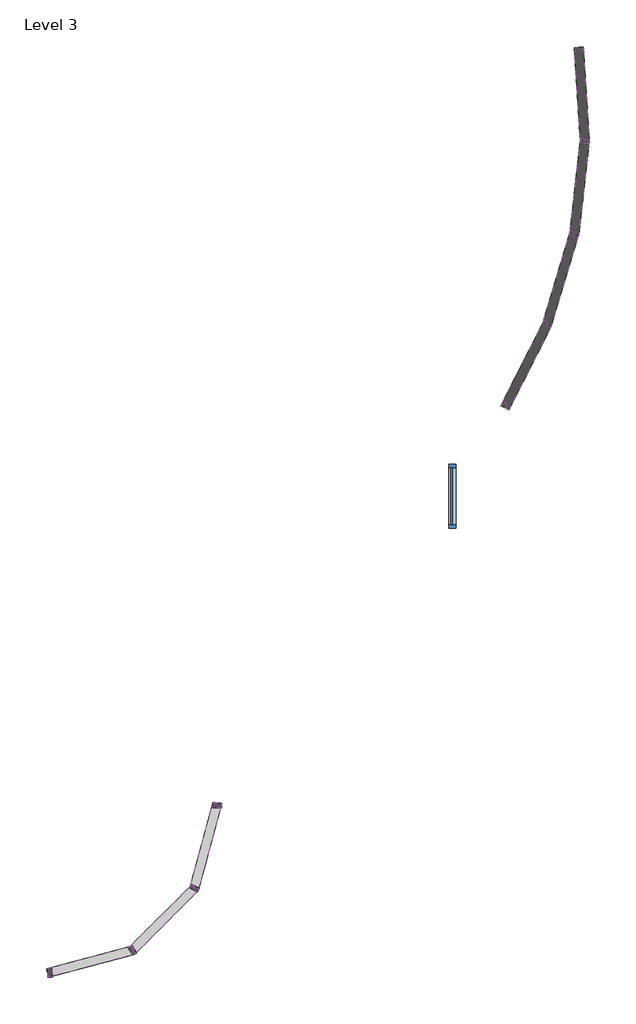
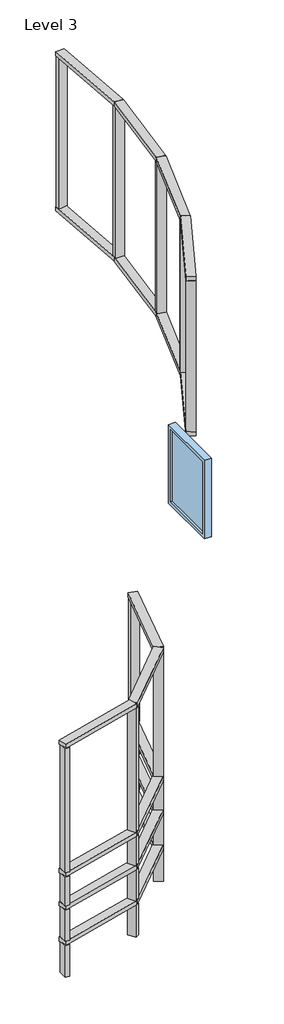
# One storey: 41 members, 1 window.
"""IFC4 building model written with IfcOpenShell, lengths in millimetres."""

from ifc_helpers import new_model, si_unit, frame, origin, place, context, project, spatial, polyline, outline, extrude, transform, mapped, element, save
from components import fixed_552a8660

model = new_model("IFC4")

# Units and contexts
model_context = context("Model", 3, world=origin())
ifc_project = project(units=[si_unit("LENGTHUNIT", "METRE", prefix="MILLI")], contexts=[model_context])

# Site, building, storey
site = spatial("IfcSite", under=ifc_project)
building = spatial("IfcBuilding", under=site)
storey = spatial("IfcBuildingStorey", under=building, Name="Level 3", Elevation=7315.2)

# Members
placement = place(None, origin())
element("IfcMember", 1, ObjectType="Rectangular Mullion1 : 2.5\" x 5\" rectangular", at=placement, inside=storey, context=model_context, shape_type="SweptSolid", body=[
    extrude(outline(polyline([(-113122.4790603, 32641.1481071), (-113245.1516403, 32674.0181259), (-112918.4679848, 33893.2181259), (-112795.7954049, 33860.3481071), (-113122.4790603, 32641.1481071)])), frame((0.0, 0.0, 7853.3565312), z_axis=(0.0, 0.0, 1.0), x_axis=(1.0, 0.0, 0.0)), (0.0, 0.0, 1.0), 63.5),
])
element("IfcMember", 2, ObjectType="Rectangular Mullion1 : 2.5\" x 5\" rectangular", at=placement, inside=storey, context=model_context, shape_type="SweptSolid", body=[
    extrude(outline(polyline([(-114031.4304143, 31720.1654913), (-114121.2329755, 31809.9680525), (-113228.7166309, 32702.4843971), (-113138.9140697, 32612.6818359), (-114031.4304143, 31720.1654913)])), frame((0.0, 0.0, 7853.3565312), z_axis=(0.0, 0.0, 1.0), x_axis=(1.0, 0.0, 0.0)), (0.0, 0.0, 1.0), 63.5),
])
element("IfcMember", 3, ObjectType="Rectangular Mullion1 : 2.5\" x 5\" rectangular", at=placement, inside=storey, context=model_context, shape_type="SweptSolid", body=[
    extrude(outline(polyline([(-115279.0966855, 31377.0468265), (-115311.9667042, 31499.7194065), (-114092.7667042, 31826.4030619), (-114059.8966855, 31703.7304819), (-115279.0966855, 31377.0468265)])), frame((0.0, 0.0, 7853.3565312), z_axis=(0.0, 0.0, 1.0), x_axis=(1.0, 0.0, 0.0)), (0.0, 0.0, 1.0), 63.5),
])
element("IfcMember", 4, ObjectType="Rectangular Mullion1 : 2.5\" x 5\" rectangular", at=placement, inside=storey, context=model_context, shape_type="SweptSolid", body=[
    extrude(outline(polyline([(-113122.4790603, 32641.1481071), (-113245.1516403, 32674.0181259), (-112918.4679848, 33893.2181259), (-112795.7954049, 33860.3481071), (-113122.4790603, 32641.1481071)])), frame((0.0, 0.0, 8400.9477899), z_axis=(0.0, 0.0, 1.0), x_axis=(1.0, 0.0, 0.0)), (0.0, 0.0, 1.0), 63.5),
])
element("IfcMember", 5, ObjectType="Rectangular Mullion1 : 2.5\" x 5\" rectangular", at=placement, inside=storey, context=model_context, shape_type="SweptSolid", body=[
    extrude(outline(polyline([(-114031.4304143, 31720.1654913), (-114121.2329755, 31809.9680525), (-113228.7166309, 32702.4843971), (-113138.9140697, 32612.6818359), (-114031.4304143, 31720.1654913)])), frame((0.0, 0.0, 8400.9477899), z_axis=(0.0, 0.0, 1.0), x_axis=(1.0, 0.0, 0.0)), (0.0, 0.0, 1.0), 63.5),
])
element("IfcMember", 6, ObjectType="Rectangular Mullion1 : 2.5\" x 5\" rectangular", at=placement, inside=storey, context=model_context, shape_type="SweptSolid", body=[
    extrude(outline(polyline([(-115279.0966855, 31377.0468265), (-115311.9667042, 31499.7194065), (-114092.7667042, 31826.4030619), (-114059.8966855, 31703.7304819), (-115279.0966855, 31377.0468265)])), frame((0.0, 0.0, 8400.9477899), z_axis=(0.0, 0.0, 1.0), x_axis=(1.0, 0.0, 0.0)), (0.0, 0.0, 1.0), 63.5),
])
element("IfcMember", 7, ObjectType="Rectangular Mullion1 : 2.5\" x 5\" rectangular", at=placement, inside=storey, context=model_context, shape_type="SweptSolid", body=[
    extrude(outline(polyline([(-113122.4790603, 32641.1481071), (-113245.1516403, 32674.0181259), (-112918.4679848, 33893.2181259), (-112795.7954049, 33860.3481071), (-113122.4790603, 32641.1481071)])), frame((0.0, 0.0, 8916.5900713), z_axis=(0.0, 0.0, 1.0), x_axis=(1.0, 0.0, 0.0)), (0.0, 0.0, 1.0), 63.5),
])
element("IfcMember", 8, ObjectType="Rectangular Mullion1 : 2.5\" x 5\" rectangular", at=placement, inside=storey, context=model_context, shape_type="SweptSolid", body=[
    extrude(outline(polyline([(-114031.4304143, 31720.1654913), (-114121.2329755, 31809.9680525), (-113228.7166309, 32702.4843971), (-113138.9140697, 32612.6818359), (-114031.4304143, 31720.1654913)])), frame((0.0, 0.0, 8916.5900713), z_axis=(0.0, 0.0, 1.0), x_axis=(1.0, 0.0, 0.0)), (0.0, 0.0, 1.0), 63.5),
])
element("IfcMember", 9, ObjectType="Rectangular Mullion1 : 2.5\" x 5\" rectangular", at=placement, inside=storey, context=model_context, shape_type="SweptSolid", body=[
    extrude(outline(polyline([(-115279.0966855, 31377.0468265), (-115311.9667042, 31499.7194065), (-114092.7667042, 31826.4030619), (-114059.8966855, 31703.7304819), (-115279.0966855, 31377.0468265)])), frame((0.0, 0.0, 8916.5900713), z_axis=(0.0, 0.0, 1.0), x_axis=(1.0, 0.0, 0.0)), (0.0, 0.0, 1.0), 63.5),
])
element("IfcMember", 10, ObjectType="Rectangular Mullion1 : 2.5\" x 5\" rectangular", at=placement, inside=storey, context=model_context, shape_type="SweptSolid", body=[
    extrude(outline(polyline([(-113122.4790603, 32641.1481071), (-113245.1516403, 32674.0181259), (-112918.4679848, 33893.2181259), (-112795.7954049, 33860.3481071), (-113122.4790603, 32641.1481071)])), frame((0.0, 0.0, 10909.3), z_axis=(0.0, 0.0, 1.0), x_axis=(1.0, 0.0, 0.0)), (0.0, 0.0, 1.0), 63.5),
])
element("IfcMember", 11, ObjectType="Rectangular Mullion1 : 2.5\" x 5\" rectangular", at=placement, inside=storey, context=model_context, shape_type="SweptSolid", body=[
    extrude(outline(polyline([(-114031.4304143, 31720.1654913), (-114121.2329755, 31809.9680525), (-113228.7166309, 32702.4843971), (-113138.9140697, 32612.6818359), (-114031.4304143, 31720.1654913)])), frame((0.0, 0.0, 10909.3), z_axis=(0.0, 0.0, 1.0), x_axis=(1.0, 0.0, 0.0)), (0.0, 0.0, 1.0), 63.5),
])
element("IfcMember", 12, ObjectType="Rectangular Mullion1 : 2.5\" x 5\" rectangular", at=placement, inside=storey, context=model_context, shape_type="SweptSolid", body=[
    extrude(outline(polyline([(-115279.0966855, 31377.0468265), (-115311.9667042, 31499.7194065), (-114092.7667042, 31826.4030619), (-114059.8966855, 31703.7304819), (-115279.0966855, 31377.0468265)])), frame((0.0, 0.0, 10909.3), z_axis=(0.0, 0.0, 1.0), x_axis=(1.0, 0.0, 0.0)), (0.0, 0.0, 1.0), 63.5),
])
element("IfcMember", 13, ObjectType="Rectangular Mullion1 : 2.5\" x 5\" rectangular", at=placement, inside=storey, context=model_context, shape_type="SweptSolid", body=[
    extrude(outline(polyline([(-112793.6316949, 33813.2831165), (-112920.6316949, 33813.2831165), (-112920.6316949, 33876.7831165), (-112793.6316949, 33876.7831165), (-112793.6316949, 33813.2831165)])), frame((0.0, 0.0, 7358.2440597), z_axis=(0.0, 0.0, 1.0), x_axis=(1.0, 0.0, 0.0)), (0.0, 0.0, 1.0), 495.1124715),
])
element("IfcMember", 14, ObjectType="Rectangular Mullion1 : 2.5\" x 5\" rectangular", at=placement, inside=storey, context=model_context, shape_type="SweptSolid", body=[
    extrude(outline(polyline([(-112793.6316949, 33813.2831165), (-112920.6316949, 33813.2831165), (-112920.6316949, 33876.7831165), (-112793.6316949, 33876.7831165), (-112793.6316949, 33813.2831165)])), frame((0.0, 0.0, 7916.8565312), z_axis=(0.0, 0.0, 1.0), x_axis=(1.0, 0.0, 0.0)), (0.0, 0.0, 1.0), 484.0912587),
])
element("IfcMember", 15, ObjectType="Rectangular Mullion1 : 2.5\" x 5\" rectangular", at=placement, inside=storey, context=model_context, shape_type="SweptSolid", body=[
    extrude(outline(polyline([(-112793.6316949, 33813.2831165), (-112920.6316949, 33813.2831165), (-112920.6316949, 33876.7831165), (-112793.6316949, 33876.7831165), (-112793.6316949, 33813.2831165)])), frame((0.0, 0.0, 8464.4477899), z_axis=(0.0, 0.0, 1.0), x_axis=(1.0, 0.0, 0.0)), (0.0, 0.0, 1.0), 452.1422814),
])
element("IfcMember", 16, ObjectType="Rectangular Mullion1 : 2.5\" x 5\" rectangular", at=placement, inside=storey, context=model_context, shape_type="SweptSolid", body=[
    extrude(outline(polyline([(-112793.6316949, 33813.2831165), (-112920.6316949, 33813.2831165), (-112920.6316949, 33876.7831165), (-112793.6316949, 33876.7831165), (-112793.6316949, 33813.2831165)])), frame((0.0, 0.0, 8980.0900713), z_axis=(0.0, 0.0, 1.0), x_axis=(1.0, 0.0, 0.0)), (0.0, 0.0, 1.0), 1929.2099287),
])
element("IfcMember", 17, ObjectType="Rectangular Mullion1 : 2.5\" x 5\" rectangular", at=placement, inside=storey, context=model_context, shape_type="SweptSolid", body=[
    extrude(outline(polyline([(-113144.6977371, 32598.3368099), (-113254.6829634, 32661.8368099), (-113222.9329634, 32716.8294231), (-113112.9477371, 32653.3294231), (-113144.6977371, 32598.3368099)])), frame((0.0, 0.0, 7358.2440597), z_axis=(0.0, 0.0, 1.0), x_axis=(1.0, 0.0, 0.0)), (0.0, 0.0, 1.0), 495.1124715),
])
element("IfcMember", 18, ObjectType="Rectangular Mullion1 : 2.5\" x 5\" rectangular", at=placement, inside=storey, context=model_context, shape_type="SweptSolid", body=[
    extrude(outline(polyline([(-113144.6977371, 32598.3368099), (-113254.6829634, 32661.8368099), (-113222.9329634, 32716.8294231), (-113112.9477371, 32653.3294231), (-113144.6977371, 32598.3368099)])), frame((0.0, 0.0, 7916.8565312), z_axis=(0.0, 0.0, 1.0), x_axis=(1.0, 0.0, 0.0)), (0.0, 0.0, 1.0), 484.0912587),
])
element("IfcMember", 19, ObjectType="Rectangular Mullion1 : 2.5\" x 5\" rectangular", at=placement, inside=storey, context=model_context, shape_type="SweptSolid", body=[
    extrude(outline(polyline([(-113144.6977371, 32598.3368099), (-113254.6829634, 32661.8368099), (-113222.9329634, 32716.8294231), (-113112.9477371, 32653.3294231), (-113144.6977371, 32598.3368099)])), frame((0.0, 0.0, 8464.4477899), z_axis=(0.0, 0.0, 1.0), x_axis=(1.0, 0.0, 0.0)), (0.0, 0.0, 1.0), 452.1422814),
])
element("IfcMember", 20, ObjectType="Rectangular Mullion1 : 2.5\" x 5\" rectangular", at=placement, inside=storey, context=model_context, shape_type="SweptSolid", body=[
    extrude(outline(polyline([(-113144.6977371, 32598.3368099), (-113254.6829634, 32661.8368099), (-113222.9329634, 32716.8294231), (-113112.9477371, 32653.3294231), (-113144.6977371, 32598.3368099)])), frame((0.0, 0.0, 8980.0900713), z_axis=(0.0, 0.0, 1.0), x_axis=(1.0, 0.0, 0.0)), (0.0, 0.0, 1.0), 1929.2099287),
])
element("IfcMember", 21, ObjectType="Rectangular Mullion1 : 2.5\" x 5\" rectangular", at=placement, inside=storey, context=model_context, shape_type="SweptSolid", body=[
    extrude(outline(polyline([(-114072.0780014, 31694.1991588), (-114135.5780014, 31804.1843851), (-114080.5853883, 31835.9343851), (-114017.0853883, 31725.9491588), (-114072.0780014, 31694.1991588)])), frame((0.0, 0.0, 7358.2440597), z_axis=(0.0, 0.0, 1.0), x_axis=(1.0, 0.0, 0.0)), (0.0, 0.0, 1.0), 495.1124715),
])
element("IfcMember", 22, ObjectType="Rectangular Mullion1 : 2.5\" x 5\" rectangular", at=placement, inside=storey, context=model_context, shape_type="SweptSolid", body=[
    extrude(outline(polyline([(-114072.0780014, 31694.1991588), (-114135.5780014, 31804.1843851), (-114080.5853883, 31835.9343851), (-114017.0853883, 31725.9491588), (-114072.0780014, 31694.1991588)])), frame((0.0, 0.0, 7916.8565312), z_axis=(0.0, 0.0, 1.0), x_axis=(1.0, 0.0, 0.0)), (0.0, 0.0, 1.0), 484.0912587),
])
element("IfcMember", 23, ObjectType="Rectangular Mullion1 : 2.5\" x 5\" rectangular", at=placement, inside=storey, context=model_context, shape_type="SweptSolid", body=[
    extrude(outline(polyline([(-114072.0780014, 31694.1991588), (-114135.5780014, 31804.1843851), (-114080.5853883, 31835.9343851), (-114017.0853883, 31725.9491588), (-114072.0780014, 31694.1991588)])), frame((0.0, 0.0, 8464.4477899), z_axis=(0.0, 0.0, 1.0), x_axis=(1.0, 0.0, 0.0)), (0.0, 0.0, 1.0), 452.1422814),
])
element("IfcMember", 24, ObjectType="Rectangular Mullion1 : 2.5\" x 5\" rectangular", at=placement, inside=storey, context=model_context, shape_type="SweptSolid", body=[
    extrude(outline(polyline([(-114072.0780014, 31694.1991588), (-114135.5780014, 31804.1843851), (-114080.5853883, 31835.9343851), (-114017.0853883, 31725.9491588), (-114072.0780014, 31694.1991588)])), frame((0.0, 0.0, 8980.0900713), z_axis=(0.0, 0.0, 1.0), x_axis=(1.0, 0.0, 0.0)), (0.0, 0.0, 1.0), 1929.2099287),
])
element("IfcMember", 25, ObjectType="Rectangular Mullion1 : 2.5\" x 5\" rectangular", at=placement, inside=storey, context=model_context, shape_type="SweptSolid", body=[
    extrude(outline(polyline([(-115295.5316949, 31374.8831165), (-115295.5316949, 31501.8831165), (-115232.0316949, 31501.8831165), (-115232.0316949, 31374.8831165), (-115295.5316949, 31374.8831165)])), frame((0.0, 0.0, 7358.2440597), z_axis=(0.0, 0.0, 1.0), x_axis=(1.0, 0.0, 0.0)), (0.0, 0.0, 1.0), 495.1124715),
])
element("IfcMember", 26, ObjectType="Rectangular Mullion1 : 2.5\" x 5\" rectangular", at=placement, inside=storey, context=model_context, shape_type="SweptSolid", body=[
    extrude(outline(polyline([(-115295.5316949, 31374.8831165), (-115295.5316949, 31501.8831165), (-115232.0316949, 31501.8831165), (-115232.0316949, 31374.8831165), (-115295.5316949, 31374.8831165)])), frame((0.0, 0.0, 7916.8565312), z_axis=(0.0, 0.0, 1.0), x_axis=(1.0, 0.0, 0.0)), (0.0, 0.0, 1.0), 484.0912587),
])
element("IfcMember", 27, ObjectType="Rectangular Mullion1 : 2.5\" x 5\" rectangular", at=placement, inside=storey, context=model_context, shape_type="SweptSolid", body=[
    extrude(outline(polyline([(-115295.5316949, 31374.8831165), (-115295.5316949, 31501.8831165), (-115232.0316949, 31501.8831165), (-115232.0316949, 31374.8831165), (-115295.5316949, 31374.8831165)])), frame((0.0, 0.0, 8464.4477899), z_axis=(0.0, 0.0, 1.0), x_axis=(1.0, 0.0, 0.0)), (0.0, 0.0, 1.0), 452.1422814),
])
element("IfcMember", 28, ObjectType="Rectangular Mullion1 : 2.5\" x 5\" rectangular", at=placement, inside=storey, context=model_context, shape_type="SweptSolid", body=[
    extrude(outline(polyline([(-115295.5316949, 31374.8831165), (-115295.5316949, 31501.8831165), (-115232.0316949, 31501.8831165), (-115232.0316949, 31374.8831165), (-115295.5316949, 31374.8831165)])), frame((0.0, 0.0, 8980.0900713), z_axis=(0.0, 0.0, 1.0), x_axis=(1.0, 0.0, 0.0)), (0.0, 0.0, 1.0), 1929.2099287),
])
element("IfcMember", 29, ObjectType="Rectangular Mullion1 : 2.5\" x 5\" rectangular", at=placement, inside=storey, context=model_context, shape_type="SweptSolid", body=[
    extrude(outline(polyline([(-108168.5008798, 40790.5335518), (-108055.292729, 40732.9756281), (-108666.7692055, 39530.2894162), (-108779.9773564, 39587.8473399), (-108168.5008798, 40790.5335518)])), frame((0.0, 0.0, 8502.65), z_axis=(0.0, 0.0, 1.0), x_axis=(1.0, 0.0, 0.0)), (0.0, 0.0, 1.0), 63.5),
])
element("IfcMember", 30, ObjectType="Rectangular Mullion1 : 2.5\" x 5\" rectangular", at=placement, inside=storey, context=model_context, shape_type="SweptSolid", body=[
    extrude(outline(polyline([(-107784.1162661, 42072.0788911), (-107662.497725, 42035.5011593), (-108051.0875339, 40743.465724), (-108172.706075, 40780.0434558), (-107784.1162661, 42072.0788911)])), frame((0.0, 0.0, 8502.65), z_axis=(0.0, 0.0, 1.0), x_axis=(1.0, 0.0, 0.0)), (0.0, 0.0, 1.0), 63.5),
])
element("IfcMember", 31, ObjectType="Rectangular Mullion1 : 2.5\" x 5\" rectangular", at=placement, inside=storey, context=model_context, shape_type="SweptSolid", body=[
    extrude(outline(polyline([(-107633.001115, 43401.4675472), (-107506.8245794, 43387.0286456), (-107660.2187278, 42046.5705744), (-107786.3952634, 42061.009476), (-107633.001115, 43401.4675472)])), frame((0.0, 0.0, 8502.65), z_axis=(0.0, 0.0, 1.0), x_axis=(1.0, 0.0, 0.0)), (0.0, 0.0, 1.0), 63.5),
])
element("IfcMember", 32, ObjectType="Rectangular Mullion1 : 2.5\" x 5\" rectangular", at=placement, inside=storey, context=model_context, shape_type="SweptSolid", body=[
    extrude(outline(polyline([(-107719.9421584, 44736.58973), (-107593.2044035, 44744.7470261), (-107506.5439697, 43398.3267444), (-107633.2817247, 43390.1694484), (-107719.9421584, 44736.58973)])), frame((0.0, 0.0, 8502.65), z_axis=(0.0, 0.0, 1.0), x_axis=(1.0, 0.0, 0.0)), (0.0, 0.0, 1.0), 63.5),
])
element("IfcMember", 33, ObjectType="Rectangular Mullion1 : 2.5\" x 5\" rectangular", at=placement, inside=storey, context=model_context, shape_type="SweptSolid", body=[
    extrude(outline(polyline([(-108168.5008798, 40790.5335518), (-108055.292729, 40732.9756281), (-108666.7692055, 39530.2894162), (-108779.9773564, 39587.8473399), (-108168.5008798, 40790.5335518)])), frame((0.0, 0.0, 10909.3), z_axis=(0.0, 0.0, 1.0), x_axis=(1.0, 0.0, 0.0)), (0.0, 0.0, 1.0), 63.5),
])
element("IfcMember", 34, ObjectType="Rectangular Mullion1 : 2.5\" x 5\" rectangular", at=placement, inside=storey, context=model_context, shape_type="SweptSolid", body=[
    extrude(outline(polyline([(-107784.1162661, 42072.0788911), (-107662.497725, 42035.5011593), (-108051.0875339, 40743.465724), (-108172.706075, 40780.0434558), (-107784.1162661, 42072.0788911)])), frame((0.0, 0.0, 10909.3), z_axis=(0.0, 0.0, 1.0), x_axis=(1.0, 0.0, 0.0)), (0.0, 0.0, 1.0), 63.5),
])
element("IfcMember", 35, ObjectType="Rectangular Mullion1 : 2.5\" x 5\" rectangular", at=placement, inside=storey, context=model_context, shape_type="SweptSolid", body=[
    extrude(outline(polyline([(-107633.001115, 43401.4675472), (-107506.8245794, 43387.0286456), (-107660.2187278, 42046.5705744), (-107786.3952634, 42061.009476), (-107633.001115, 43401.4675472)])), frame((0.0, 0.0, 10909.3), z_axis=(0.0, 0.0, 1.0), x_axis=(1.0, 0.0, 0.0)), (0.0, 0.0, 1.0), 63.5),
])
element("IfcMember", 36, ObjectType="Rectangular Mullion1 : 2.5\" x 5\" rectangular", at=placement, inside=storey, context=model_context, shape_type="SweptSolid", body=[
    extrude(outline(polyline([(-107719.9421584, 44736.58973), (-107593.2044035, 44744.7470261), (-107506.5439697, 43398.3267444), (-107633.2817247, 43390.1694484), (-107719.9421584, 44736.58973)])), frame((0.0, 0.0, 10909.3), z_axis=(0.0, 0.0, 1.0), x_axis=(1.0, 0.0, 0.0)), (0.0, 0.0, 1.0), 63.5),
])
element("IfcMember", 37, ObjectType="Rectangular Mullion1 : 2.5\" x 5\" rectangular", at=placement, inside=storey, context=model_context, shape_type="SweptSolid", body=[
    extrude(outline(polyline([(-108743.4898641, 39646.5887933), (-108635.8528657, 39579.1849612), (-108669.5547817, 39525.366462), (-108777.1917802, 39592.7702941), (-108743.4898641, 39646.5887933)])), frame((0.0, 0.0, 8566.15), z_axis=(0.0, 0.0, 1.0), x_axis=(1.0, 0.0, 0.0)), (0.0, 0.0, 1.0), 2343.15),
])
element("IfcMember", 38, ObjectType="Rectangular Mullion1 : 2.5\" x 5\" rectangular", at=placement, inside=storey, context=model_context, shape_type="SweptSolid", body=[
    extrude(outline(polyline([(-108159.0234898, 40814.8524997), (-108041.1424654, 40767.5971923), (-108064.770119, 40708.6566801), (-108182.6511435, 40755.9119875), (-108159.0234898, 40814.8524997)])), frame((0.0, 0.0, 8566.15), z_axis=(0.0, 0.0, 1.0), x_axis=(1.0, 0.0, 0.0)), (0.0, 0.0, 1.0), 2343.15),
])
element("IfcMember", 39, ObjectType="Rectangular Mullion1 : 2.5\" x 5\" rectangular", at=placement, inside=storey, context=model_context, shape_type="SweptSolid", body=[
    extrude(outline(polyline([(-107779.1000376, 42097.6927468), (-107654.7089931, 42072.0828258), (-107667.5139536, 42009.8873036), (-107791.9049981, 42035.4972245), (-107779.1000376, 42097.6927468)])), frame((0.0, 0.0, 8566.15), z_axis=(0.0, 0.0, 1.0), x_axis=(1.0, 0.0, 0.0)), (0.0, 0.0, 1.0), 2343.15),
])
element("IfcMember", 40, ObjectType="Rectangular Mullion1 : 2.5\" x 5\" rectangular", at=placement, inside=storey, context=model_context, shape_type="SweptSolid", body=[
    extrude(outline(polyline([(-107632.6049423, 43427.5649647), (-107505.6440955, 43424.4116515), (-107507.2207521, 43360.9312281), (-107634.1815989, 43364.0845413), (-107632.6049423, 43427.5649647)])), frame((0.0, 0.0, 8566.15), z_axis=(0.0, 0.0, 1.0), x_axis=(1.0, 0.0, 0.0)), (0.0, 0.0, 1.0), 2343.15),
])
element("IfcMember", 41, ObjectType="Rectangular Mullion1 : 2.5\" x 5\" rectangular", at=placement, inside=storey, context=model_context, shape_type="SweptSolid", body=[
    extrude(outline(polyline([(-107719.327796, 44730.9667885), (-107593.8187659, 44750.3699676), (-107584.1171763, 44687.6154525), (-107709.6262065, 44668.2122734), (-107719.327796, 44730.9667885)])), frame((0.0, 0.0, 8566.15), z_axis=(0.0, 0.0, 1.0), x_axis=(1.0, 0.0, 0.0)), (0.0, 0.0, 1.0), 2343.15),
])

# Window
fixed_shape = fixed_552a8660(model_context)
element("IfcWindow", 42, ObjectType="fixed : 36\"w x 48\"h", at=placement, inside=storey, context=model_context, shape_type="MappedRepresentation", body=[
    mapped(fixed_shape, transform((-109485.373281, 38289.0683781, 7315.2), x_axis=(0.0, -1.0, 0.0), y_axis=(1.0, 0.0, 0.0), z_axis=(0.0, 0.0, 1.0))),
])

save(model, "model.ifc")
